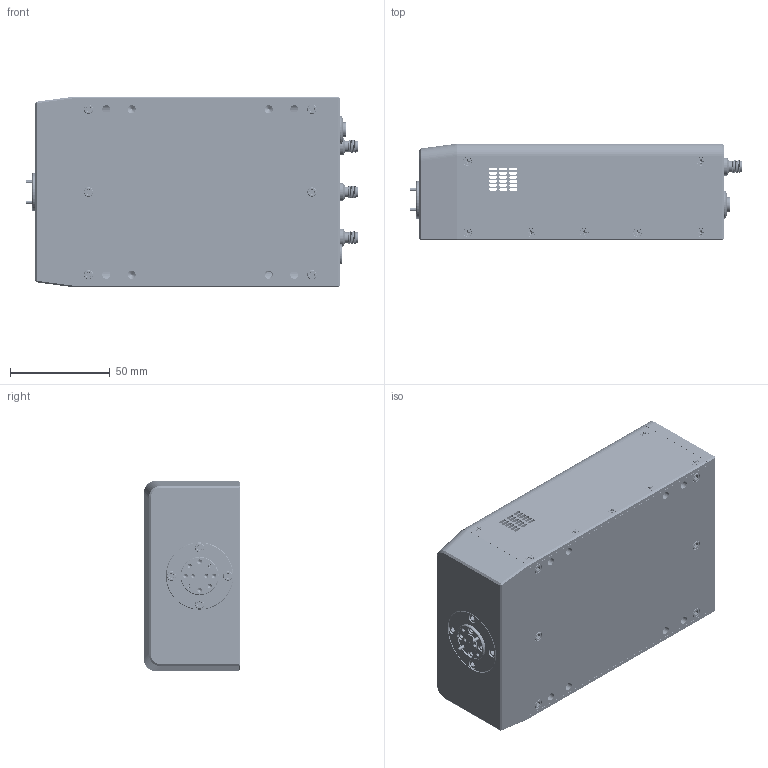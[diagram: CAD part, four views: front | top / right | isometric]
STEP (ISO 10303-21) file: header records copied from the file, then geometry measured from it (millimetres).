
FILE_DESCRIPTION (( 'STEP AP214' ), '1' );
FILE_NAME ('TO-T03-A Mountable.STEP', '2024-11-02T00:11:37', ( '' ), ( '' ), 'SwSTEP 2.0', 'SolidWorks 2021', '' );
FILE_SCHEMA (( 'AUTOMOTIVE_DESIGN' ));
Length unit declared in the file: inch
Products named in the file (1): TO-T03-A Mountable
Bounding box: 166.06 x 48.26 x 95.25 mm (x, y, z)
Volume: 203993.2 mm3; surface area: 130258.2 mm2
Topology: 62 solids, 62 shells, 3739 faces, 9938 edges, 6342 vertices
Faces by surface type: cylinder 1765, plane 943, cone 651, bspline 351, sphere 21, torus 8
Entity records: 264154 total; most frequent: CARTESIAN_POINT 131524, ORIENTED_EDGE 19602, DIRECTION 14949, EDGE_CURVE 9801, VERTEX_POINT 6336, AXIS2_PLACEMENT_3D 5660, EDGE_LOOP 4107, DIMENSIONAL_EXPONENTS 3802
